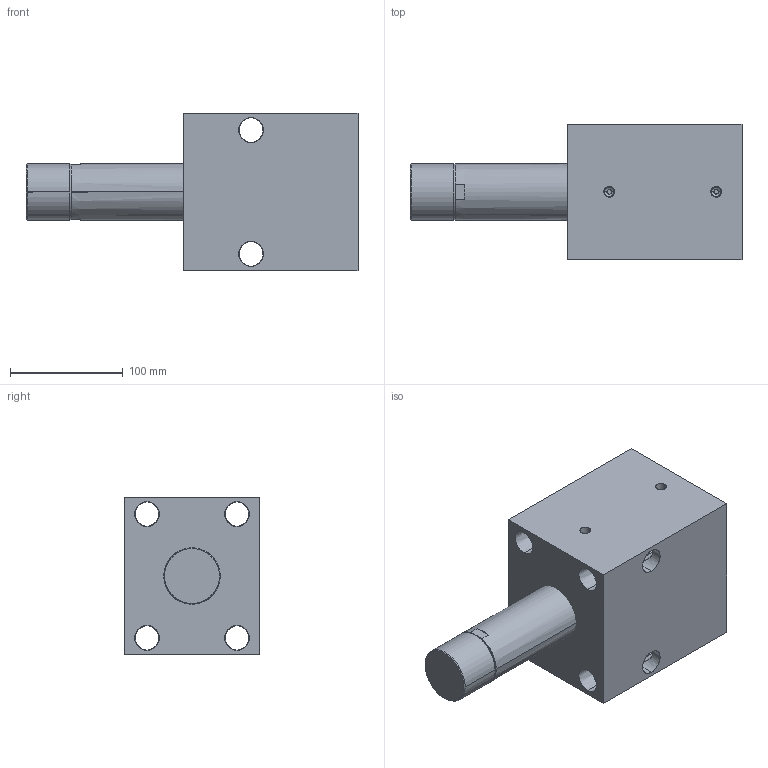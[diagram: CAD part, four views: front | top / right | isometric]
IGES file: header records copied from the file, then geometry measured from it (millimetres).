
Start section: SolidWorks IGES file using analytic representation for surfaces
Global section: file name: C:\Documents and Settings\rajib\Desktop\Rajib\BLOCK CYLINDER HYDRAULIC\0801-0806\IGES 0801-0808\0807.IGS; native system: SolidWorks 2007; preprocessor: SolidWorks 2007; author: rajib; date: 110121.163919; units: millimetre
Bounding box: 295 x 120 x 140 mm (x, y, z)
Surface area: 191100.5 mm2 (no closed solid volume)
Topology: 0 solids, 0 shells, 76 faces, 1936 edges, 1936 vertices
Faces by surface type: revolution 54, bspline 22
